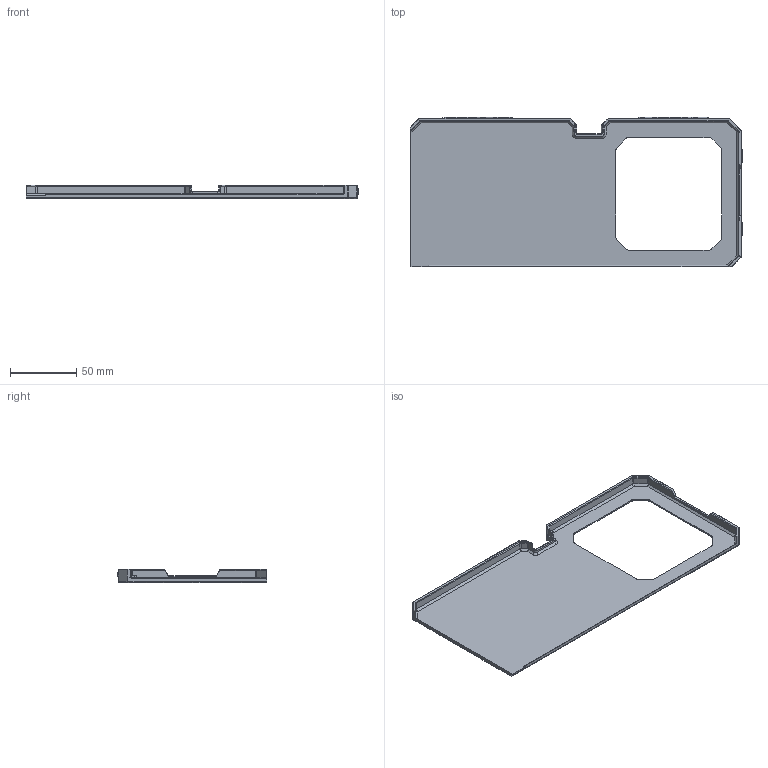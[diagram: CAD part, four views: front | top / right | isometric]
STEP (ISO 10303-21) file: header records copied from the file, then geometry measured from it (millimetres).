
FILE_DESCRIPTION((''),'2;1');
FILE_NAME('F311_MAKER_BACKPLATE','2023-06-05T11:21:49',('Kate'),(''),'CREO PARAMETRIC BY PTC INC, 2020281','CREO PARAMETRIC BY PTC INC, 2020281','');
FILE_SCHEMA(('CONFIG_CONTROL_DESIGN'));
Length unit declared in the file: millimetre
Products named in the file (1): F311_MAKER_BACKPLATE
Bounding box: 250.7 x 112.7 x 10 mm (x, y, z)
Volume: 43375.1 mm3; surface area: 51414.9 mm2
Topology: 1 solids, 1 shells, 1073 faces, 2728 edges, 1704 vertices
Faces by surface type: plane 586, cylinder 296, torus 69, bspline 57, cone 41, sphere 14, extrusion 10
Entity records: 34455 total; most frequent: CARTESIAN_POINT 8495, ORIENTED_EDGE 5450, DIRECTION 5364, EDGE_CURVE 2725, VECTOR 1814, LINE 1804, AXIS2_PLACEMENT_3D 1775, VERTEX_POINT 1704
